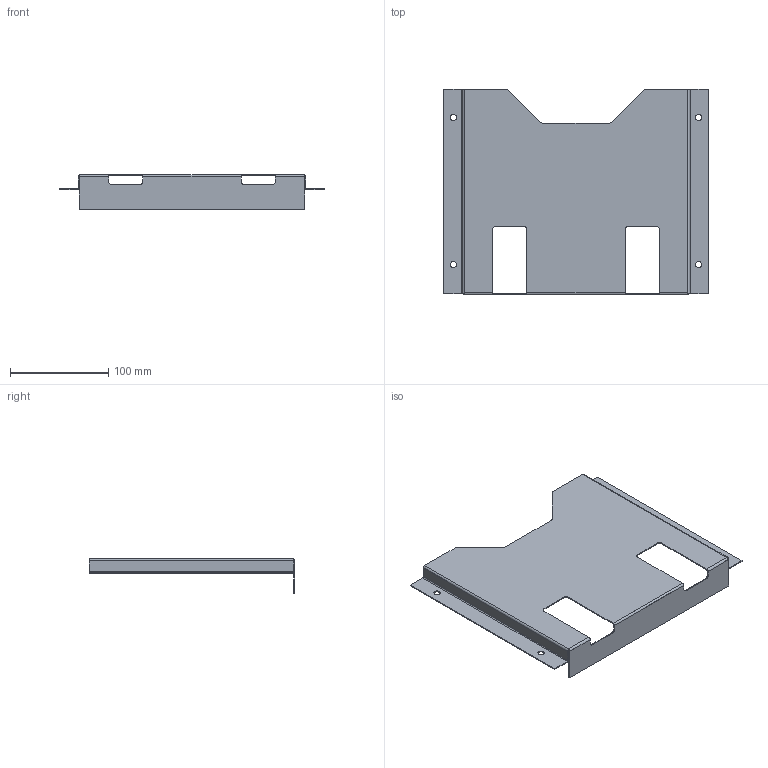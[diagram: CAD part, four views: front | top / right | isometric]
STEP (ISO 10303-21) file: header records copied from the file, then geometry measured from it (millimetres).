
FILE_DESCRIPTION(('STEP AP203'), '1');
FILE_NAME('Êàðìàí ìåòàëëè÷åñêèé äëÿ äîêóìåíòàöèè Ø400800 ìì OptiBox M 419768 ÊÝÀÇ', '', ('UNSPECIFIED'), ('UNSPECIFIED'), 'C3D Converter', 'C3D Toolkit', '');
FILE_SCHEMA(('CONFIG_CONTROL_DESIGN'));
Length unit declared in the file: millimetre
Bounding box: 270 x 210 x 35 mm (x, y, z)
Volume: 60352.2 mm3; surface area: 122336.4 mm2
Topology: 1 solids, 1 shells, 80 faces, 198 edges, 116 vertices
Faces by surface type: plane 48, cylinder 28, bspline 4
Full cylindrical faces by diameter (mm): 6.3 x4
Entity records: 3020 total; most frequent: CARTESIAN_POINT 1093, ORIENTED_EDGE 388, DIRECTION 386, EDGE_CURVE 194, LINE 136, VECTOR 136, AXIS2_PLACEMENT_3D 125, VERTEX_POINT 116
